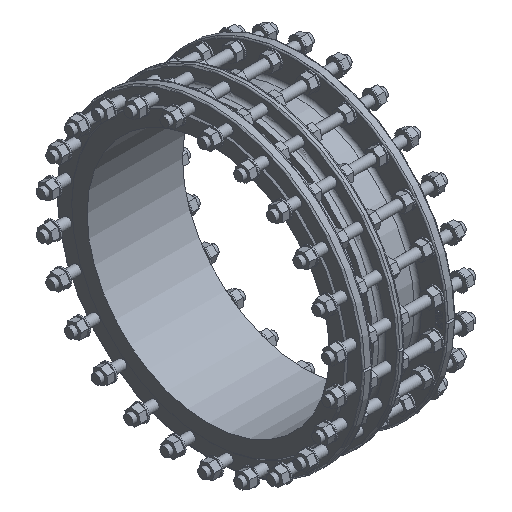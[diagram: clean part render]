
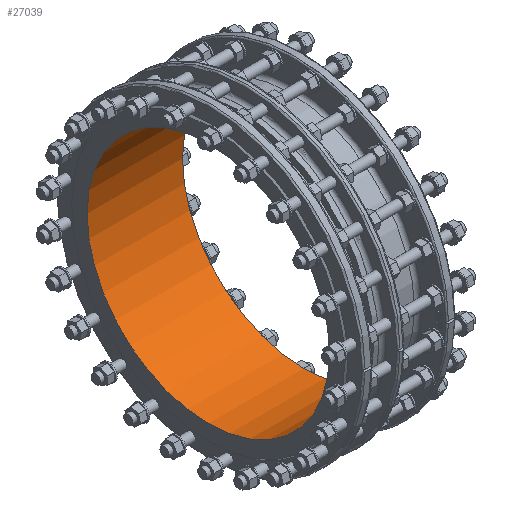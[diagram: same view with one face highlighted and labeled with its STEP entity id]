
A CAD part, isometric view. The second image highlights one B-rep face of the part: STEP entity #27039.
In plain terms, the highlighted cylindrical face has radius 400 mm (diameter 800 mm), a full revolution.
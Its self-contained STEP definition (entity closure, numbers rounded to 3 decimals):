
#1689 = CARTESIAN_POINT ( 'NONE',  ( -71., 0., -400. ) ) ;
#1953 = DIRECTION ( 'NONE',  ( -1., 0., 0. ) ) ;
#2167 = FACE_OUTER_BOUND ( 'NONE', #7602, .T. ) ;
#3728 = DIRECTION ( 'NONE',  ( -1., 0., 0. ) ) ;
#4150 = DIRECTION ( 'NONE',  ( 0., 0., 1. ) ) ;
#4508 = CARTESIAN_POINT ( 'NONE',  ( 244., 0., 400. ) ) ;
#7602 = EDGE_LOOP ( 'NONE', ( #17416 ) ) ;
#7847 = VERTEX_POINT ( 'NONE', #4508 ) ;
#7950 = VERTEX_POINT ( 'NONE', #1689 ) ;
#8628 = CYLINDRICAL_SURFACE ( 'NONE', #10819, 400. ) ;
#10819 = AXIS2_PLACEMENT_3D ( 'NONE', #27652, #1953, #28057 ) ;
#11351 = CIRCLE ( 'NONE', #34710, 400. ) ;
#11854 = EDGE_LOOP ( 'NONE', ( #26450 ) ) ;
#13304 = CARTESIAN_POINT ( 'NONE',  ( -71., 0., 0. ) ) ;
#16557 = EDGE_CURVE ( 'NONE', #7950, #7950, #11351, .T. ) ;
#17416 = ORIENTED_EDGE ( 'NONE', *, *, #23841, .F. ) ;
#19817 = CARTESIAN_POINT ( 'NONE',  ( 244., 0., 0. ) ) ;
#23127 = DIRECTION ( 'NONE',  ( 0., 0., -1. ) ) ;
#23841 = EDGE_CURVE ( 'NONE', #7847, #7847, #29964, .T. ) ;
#26450 = ORIENTED_EDGE ( 'NONE', *, *, #16557, .F. ) ;
#27039 = ADVANCED_FACE ( 'NONE', ( #2167, #30787 ), #8628, .F. ) ;
#27652 = CARTESIAN_POINT ( 'NONE',  ( 0., 0., 0. ) ) ;
#28057 = DIRECTION ( 'NONE',  ( 0., 0., 1. ) ) ;
#28622 = AXIS2_PLACEMENT_3D ( 'NONE', #19817, #3728, #4150 ) ;
#29964 = CIRCLE ( 'NONE', #28622, 400. ) ;
#30787 = FACE_OUTER_BOUND ( 'NONE', #11854, .T. ) ;
#34710 = AXIS2_PLACEMENT_3D ( 'NONE', #13304, #39422, #23127 ) ;
#39422 = DIRECTION ( 'NONE',  ( 1., 0., 0. ) ) ;
